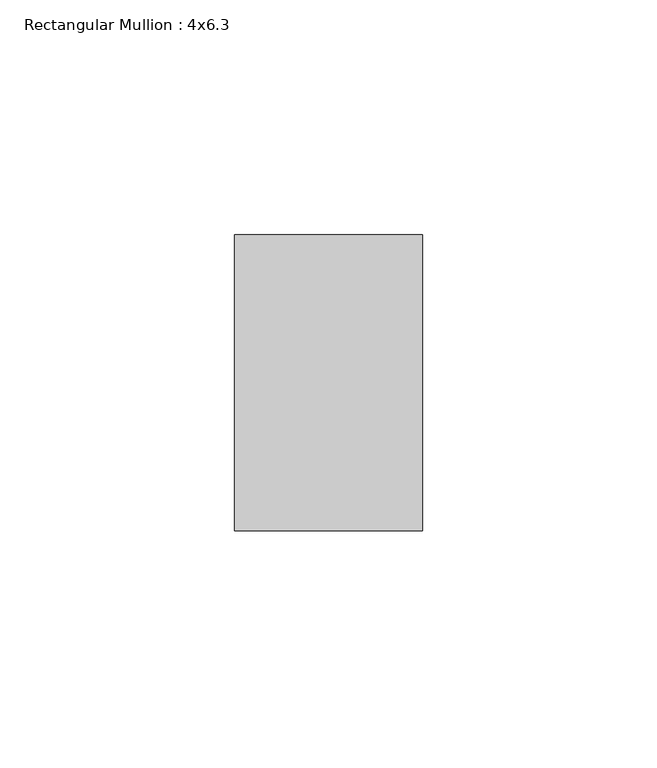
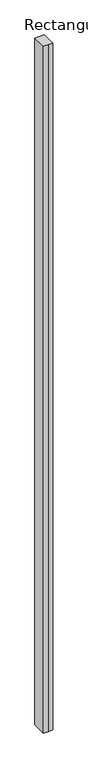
"""IFC4 building model written with IfcOpenShell, lengths in millimetres: member geometry, Rectangular Mullion : 4x6.3."""

from ifc_helpers import new_model, si_unit, frame, origin, place, context, project, spatial, polyline, outline, extrude, source, transform, mapped, element, save


def rectangular_mullion_4x6_3_2006c48f(model_context):
    return source(origin(), model_context, "Body", "SweptSolid", [
        extrude(outline(polyline([(-20.0, 20.0), (-20.0, 83.0), (20.0, 83.0), (20.0, 20.0), (0.0, 20.0), (-20.0, 20.0)])), frame((0.0, 0.0, -3108.4299538), z_axis=(0.0, 0.0, 1.0), x_axis=(1.0, 0.0, 0.0)), (0.0, 0.0, 1.0), 3108.4299538),
    ])


if __name__ == "__main__":
    model = new_model("IFC4")
    model_context = context("Model", 3, world=origin())
    ifc_project = project(units=[si_unit("LENGTHUNIT", "METRE", prefix="MILLI")], contexts=[model_context])
    site = spatial("IfcSite", under=ifc_project)
    building = spatial("IfcBuilding", under=site)
    placement = place(None, origin())
    rectangular_mullion_4x6_3_shape = rectangular_mullion_4x6_3_2006c48f(model_context)
    element("IfcMember", 1, ObjectType="Rectangular Mullion : 4x6.3", at=placement, inside=building, context=model_context, shape_type="MappedRepresentation", body=[
        mapped(rectangular_mullion_4x6_3_shape, transform((0.0, 0.0, 0.0), x_axis=(1.0, 0.0, 0.0), y_axis=(0.0, 1.0, 0.0), z_axis=(0.0, 0.0, 1.0))),
    ])
    save(model, "model.ifc")
